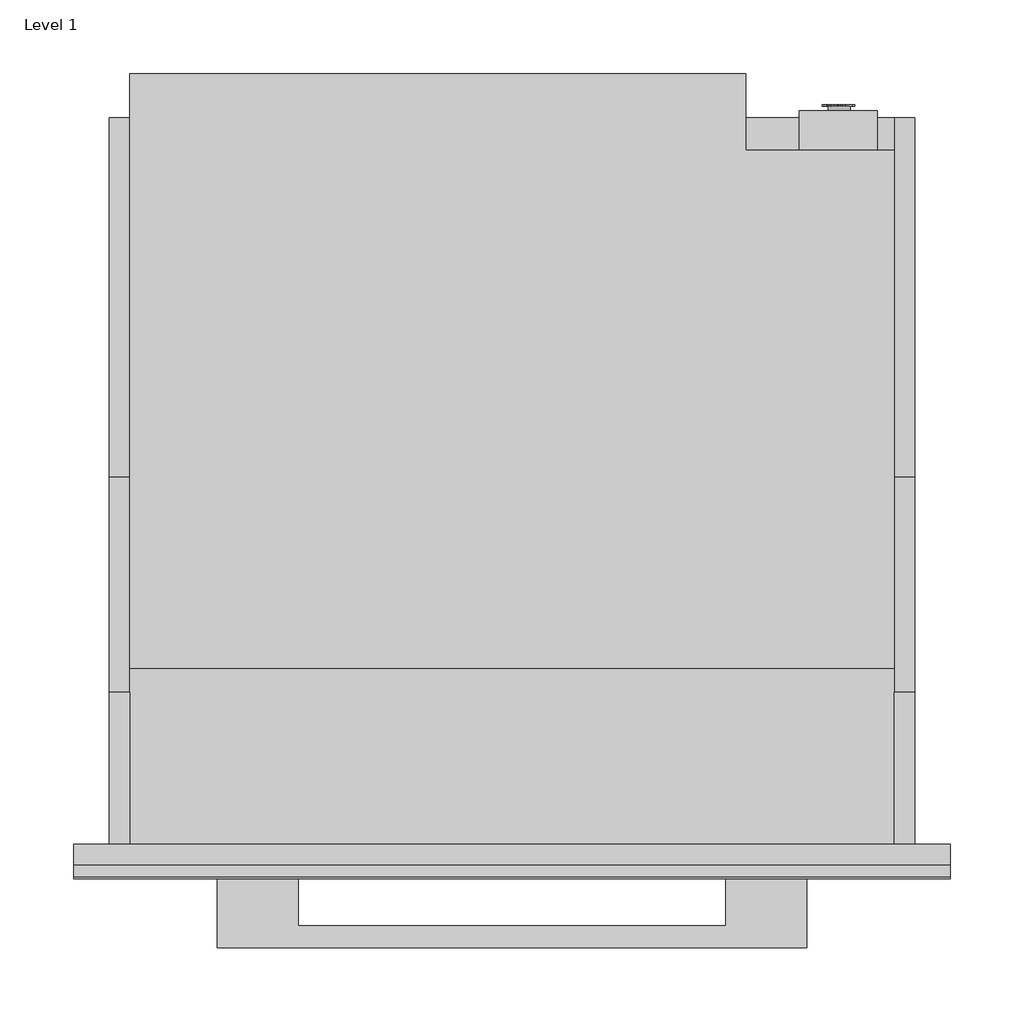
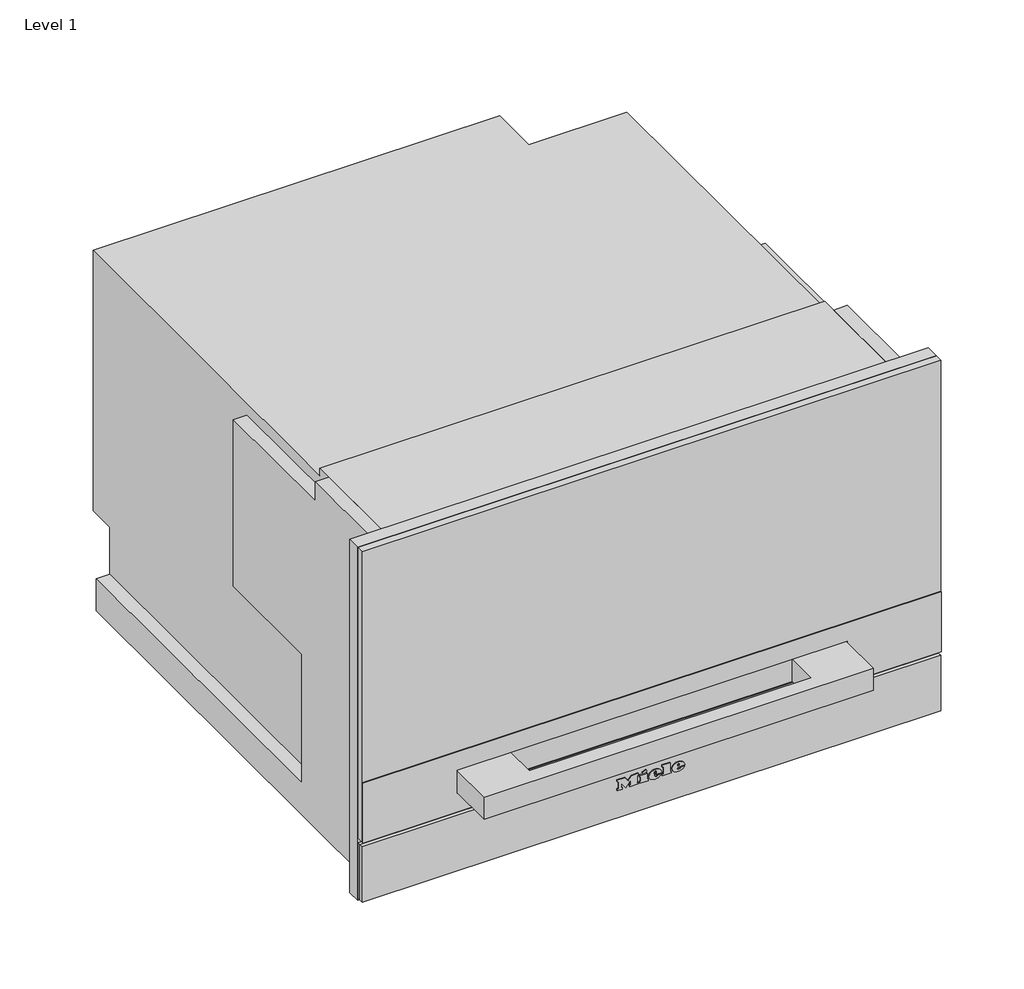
# One storey: 1 proxy.
"""IFC4 building model written with IfcOpenShell, lengths in millimetres."""

from ifc_helpers import new_model, si_unit, origin, place, context, project, spatial, transform, mapped, element, save
from components import specialty_equipment_29e4d5af

model = new_model("IFC4")

# Units and contexts
model_context = context("Model", 3, world=origin())
ifc_project = project(units=[si_unit("LENGTHUNIT", "METRE", prefix="MILLI")], contexts=[model_context])

# Site, building, storey
site = spatial("IfcSite", under=ifc_project)
building = spatial("IfcBuilding", under=site)
storey = spatial("IfcBuildingStorey", under=building, Name="Level 1", Elevation=0.0)

# Proxy
placement = place(None, origin())
specialty_equipment_shape = specialty_equipment_29e4d5af(model_context)
element("IfcBuildingElementProxy", 1, Name="11170090_NL_DGD7635_EDST-CLST : 23763545_NL_11170090_DGD7635_EDST-CLST", ObjectType="11170090_NL_DGD7635_EDST-CLST : 23763545_NL_11170090_DGD7635_EDST-CLST", at=placement, inside=storey, context=model_context, shape_type="MappedRepresentation", body=[
    mapped(specialty_equipment_shape, transform((0.0, 0.0, 0.0), x_axis=(1.0, 0.0, 0.0), y_axis=(0.0, 1.0, 0.0), z_axis=(0.0, 0.0, 1.0))),
])

save(model, "model.ifc")
